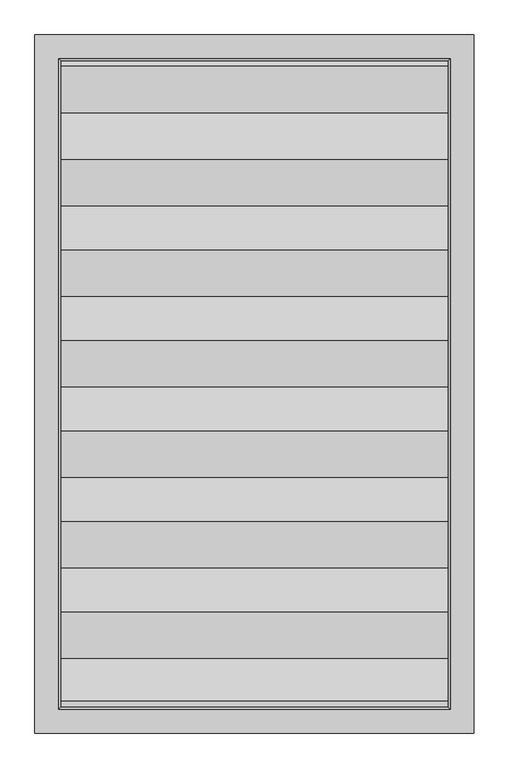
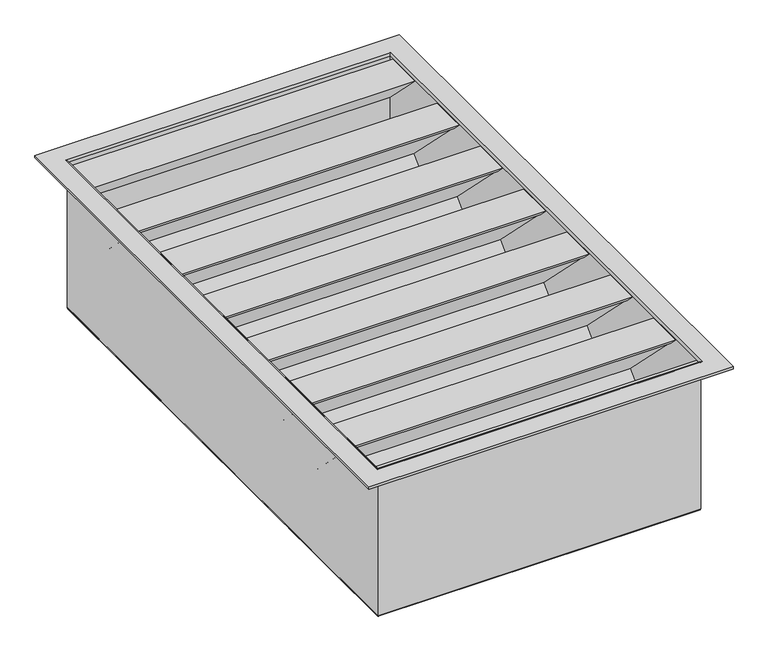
"""IFC4 building model written with IfcOpenShell, lengths in millimetres: air terminal geometry, AIR_FB_Sound-damping outdoor grille GDBV-140 45_SMA : GDBV-140/45."""

from ifc_helpers import new_model, si_unit, frame, origin, place, context, project, spatial, polyline, ellipse_curve, outline, extrude, source, transform, mapped, element, save
from ifc_brep_helpers import plane_surface, cylinder_surface, revolved_surface, advanced_brep


def air_terminal_f59a3cf8(model_context):
    return source(origin(), model_context, "Body", "SolidModel", [
        extrude(outline(polyline([(483.1, -145.9999992), (483.1, -154.883215), (347.9830126, -290.0), (276.0981375, -290.0), (293.2530918, -272.8444087), (294.2998553, -273.8911722), (423.1780942, -145.0129333), (294.2994702, -16.1343094), (293.2530918, -17.1806878), (276.0979508, -0.0258667), (347.9830134, -0.0258667), (483.1, -135.1426509), (483.1, -144.0258667), (492.9700895, -144.0258667), (492.9700895, -145.9999992), (483.1, -145.9999992)])), frame((-300.0, 0.0, 0.0), z_axis=(1.0, 0.0, 0.0), x_axis=(0.0, 1.0, 0.0)), (0.0, 0.0, 1.0), 600.0),
        extrude(outline(polyline([(343.1, -145.9999992), (343.1, -154.883215), (207.9830126, -290.0), (136.0981375, -290.0), (153.2530918, -272.8444087), (154.2998553, -273.8911722), (283.1780942, -145.0129333), (154.2994702, -16.1343094), (153.2530918, -17.1806878), (136.0979508, -0.0258667), (207.9830134, -0.0258667), (343.1, -135.1426509), (343.1, -144.0258667), (352.9700895, -144.0258667), (352.9700895, -145.9999992), (343.1, -145.9999992)])), frame((-300.0, 0.0, 0.0), z_axis=(1.0, 0.0, 0.0), x_axis=(0.0, 1.0, 0.0)), (0.0, 0.0, 1.0), 600.0),
        extrude(outline(polyline([(203.1, -145.9999992), (203.1, -154.883215), (67.9830126, -290.0), (-3.9018625, -290.0), (13.2530918, -272.8444087), (14.2998553, -273.8911722), (143.1780942, -145.0129333), (14.2994702, -16.1343094), (13.2530918, -17.1806878), (-3.9020492, -0.0258667), (67.9830134, -0.0258667), (203.1, -135.1426509), (203.1, -144.0258667), (212.9700895, -144.0258667), (212.9700895, -145.9999992), (203.1, -145.9999992)])), frame((-300.0, 0.0, 0.0), z_axis=(1.0, 0.0, 0.0), x_axis=(0.0, 1.0, 0.0)), (0.0, 0.0, 1.0), 600.0),
        extrude(outline(polyline([(63.1, -145.9999992), (63.1, -154.883215), (-72.0169874, -290.0), (-143.9018625, -290.0), (-126.7469082, -272.8444087), (-125.7001447, -273.8911722), (3.1780942, -145.0129333), (-125.7005298, -16.1343094), (-126.7469082, -17.1806878), (-143.9020492, -0.0258667), (-72.0169866, -0.0258667), (63.1, -135.1426509), (63.1, -144.0258667), (72.9700895, -144.0258667), (72.9700895, -145.9999992), (63.1, -145.9999992)])), frame((-300.0, 0.0, 0.0), z_axis=(1.0, 0.0, 0.0), x_axis=(0.0, 1.0, 0.0)), (0.0, 0.0, 1.0), 600.0),
        extrude(outline(polyline([(-76.9, -145.9999992), (-76.9, -154.883215), (-212.0169874, -290.0), (-283.9018625, -290.0), (-266.7469082, -272.8444087), (-265.7001447, -273.8911722), (-136.8219058, -145.0129333), (-265.7005298, -16.1343094), (-266.7469082, -17.1806878), (-283.9020492, -0.0258667), (-212.0169866, -0.0258667), (-76.9, -135.1426509), (-76.9, -144.0258667), (-67.0299105, -144.0258667), (-67.0299105, -145.9999992), (-76.9, -145.9999992)])), frame((-300.0, 0.0, 0.0), z_axis=(1.0, 0.0, 0.0), x_axis=(0.0, 1.0, 0.0)), (0.0, 0.0, 1.0), 600.0),
        extrude(outline(polyline([(-216.9, -145.9999992), (-216.9, -154.883215), (-352.0169874, -290.0), (-423.9018625, -290.0), (-406.7469082, -272.8444087), (-405.7001447, -273.8911722), (-276.8219058, -145.0129333), (-405.7005298, -16.1343094), (-406.7469082, -17.1806878), (-423.9020492, -0.0258667), (-352.0169866, -0.0258667), (-216.9, -135.1426509), (-216.9, -144.0258667), (-207.0299105, -144.0258667), (-207.0299105, -145.9999992), (-216.9, -145.9999992)])), frame((-300.0, 0.0, 0.0), z_axis=(1.0, 0.0, 0.0), x_axis=(0.0, 1.0, 0.0)), (0.0, 0.0, 1.0), 600.0),
        extrude(outline(polyline([(491.5, -286.5510372), (419.5, -286.5510372), (500.0, -206.0510372), (500.0, -278.0510372), (491.5, -286.5510372)])), frame((-300.0, 0.0, 0.0), z_axis=(1.0, 0.0, 0.0), x_axis=(0.0, 1.0, 0.0)), (0.0, 0.0, 1.0), 600.0),
        extrude(outline(polyline([(491.5, 0.0489628), (500.0, -8.4510372), (500.0, -80.4510372), (419.5, 0.0489628), (491.5, 0.0489628)])), frame((-300.0, 0.0, 0.0), z_axis=(1.0, 0.0, 0.0), x_axis=(0.0, 1.0, 0.0)), (0.0, 0.0, 1.0), 600.0),
        extrude(outline(polyline([(-490.3140974, 0.0489628), (-356.8841797, -133.3807551), (-356.8841797, -142.2639709), (-347.0138972, -142.2639709), (-347.0138972, -144.2381035), (-356.8841797, -144.2381035), (-356.8841797, -153.1213193), (-490.3140974, -286.5510372), (-500.0, -286.5510372), (-500.0, 0.0489628), (-490.3140974, 0.0489628)])), frame((-300.0, 0.0, 0.0), z_axis=(1.0, 0.0, 0.0), x_axis=(0.0, 1.0, 0.0)), (0.0, 0.0, 1.0), 600.0),
        advanced_brep(
        [(301.4695295, 501.4695295, 1.1587848), (303.4542548, 503.4542548, 3.1435102), (303.4542548, -503.4542548, 3.1435102), (301.4695295, -501.4695295, 1.1587848), (301.4695295, 501.4695295, -286.5329526), (301.4695295, -501.4695295, -286.5329526), (298.0024821, 498.0024821, -290.0), (298.0024821, -498.0024821, -290.0), (285.1867439, 485.1867439, -288.5), (285.1867439, 485.1867439, -290.0), (285.1867439, -485.1867439, -290.0), (285.1867439, -485.1867439, -288.5), (300.0, 500.0, -286.5510372), (298.035904, 498.035904, -288.5), (298.035904, -498.035904, -288.5), (300.0, -500.0, -286.5510372), (300.0, -500.0, 1.1644463), (300.0, 500.0, 1.1644463), (303.4507339, 503.4507339, 4.6151802), (303.4507339, -503.4507339, 4.6151802), (-303.4542548, -503.4542548, 3.1435102), (-301.4695295, -501.4695295, 1.1587848), (-301.4695295, -501.4695295, -286.5329526), (-298.0024821, -498.0024821, -290.0), (-285.1867439, -485.1867439, -290.0), (-285.1867439, -485.1867439, -288.5), (-298.035904, -498.035904, -288.5), (-300.0, -500.0, -286.5510372), (-300.0, -500.0, 1.1644463), (-303.4507339, -503.4507339, 4.6151802), (-303.4542548, 503.4542548, 3.1435102), (-301.4695295, 501.4695295, 1.1587848), (-301.4695295, 501.4695295, -286.5329526), (-298.0024821, 498.0024821, -290.0), (-285.1867439, 485.1867439, -290.0), (-285.1867439, 485.1867439, -288.5), (-298.035904, 498.035904, -288.5), (-300.0, 500.0, -286.5510372), (-300.0, 500.0, 1.1644463), (-303.4507339, 503.4507339, 4.6151802), (337.9596736, -537.9596736, 3.1435102), (-337.9596736, -537.9596736, 3.1435102), (-337.9596736, 537.9596736, 3.1435102), (337.9596736, 537.9596736, 3.1435102), (340.0, 540.0, 4.6151802), (-340.0, 540.0, 4.6151802), (-340.0, -540.0, 4.6151802), (340.0, -540.0, 4.6151802), (340.0, 540.0, 0.0), (340.0, -540.0, 0.0), (336.9581224, 536.9581224, 1.2615748), (336.9581224, 536.9581224, 0.0), (336.9581224, -536.9581224, 0.0), (336.9581224, -536.9581224, 1.2615748), (337.9596736, 537.9596736, 1.2615748), (337.9596736, -537.9596736, 1.2615748), (-340.0, -540.0, 0.0), (-336.9581224, -536.9581224, 0.0), (-336.9581224, -536.9581224, 1.2615748), (-337.9596736, -537.9596736, 1.2615748), (-340.0, 540.0, 0.0), (-336.9581224, 536.9581224, 0.0), (-336.9581224, 536.9581224, 1.2615748), (-337.9596736, 537.9596736, 1.2615748)],
        [
            (0, 1, ellipse_curve(frame((303.4542548, 503.4542548, 1.1587848), z_axis=(-0.7071067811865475, 0.7071067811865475, 0.0), x_axis=(-0.7071067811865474, -0.7071067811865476, 0.0)), 2.8068255, 1.9847254)),
            (1, 2),
            (2, 3, ellipse_curve(frame((303.4542548, -503.4542548, 1.1587848), z_axis=(-0.7071067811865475, -0.7071067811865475, 0.0), x_axis=(0.7071067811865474, -0.7071067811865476, 0.0)), 2.8068255, 1.9847254)),
            (3, 0),
            (4, 0),
            (3, 5),
            (5, 4),
            (6, 4, ellipse_curve(frame((298.0024821, 498.0024821, -286.5329526), z_axis=(0.7071067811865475, -0.7071067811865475, 0.0), x_axis=(0.7071067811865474, 0.7071067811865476, 0.0)), 4.9031454, 3.4670474)),
            (5, 7, ellipse_curve(frame((298.0024821, -498.0024821, -286.5329526), z_axis=(0.7071067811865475, 0.7071067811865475, 0.0), x_axis=(-0.7071067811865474, 0.7071067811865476, 0.0)), 4.9031454, 3.4670474)),
            (7, 6),
            (8, 9),
            (9, 10),
            (10, 11),
            (11, 8),
            (12, 13, ellipse_curve(frame((298.035904, 498.035904, -286.5358452), z_axis=(-0.7071067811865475, 0.7071067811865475, 0.0), x_axis=(-0.7071067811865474, -0.7071067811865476, 0.0)), 2.7777343, 1.9641548)),
            (13, 14),
            (14, 15, ellipse_curve(frame((298.035904, -498.035904, -286.5358452), z_axis=(-0.7071067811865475, -0.7071067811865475, 0.0), x_axis=(0.7071067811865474, -0.7071067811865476, 0.0)), 2.7777343, 1.9641548)),
            (15, 12),
            (15, 16),
            (16, 17),
            (17, 12),
            (18, 17, ellipse_curve(frame((303.4507339, 503.4507339, 1.1644463), z_axis=(0.7071067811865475, -0.7071067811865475, 0.0), x_axis=(0.7071067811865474, 0.7071067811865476, 0.0)), 4.8800747, 3.4507339)),
            (16, 19, ellipse_curve(frame((303.4507339, -503.4507339, 1.1644463), z_axis=(0.7071067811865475, 0.7071067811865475, 0.0), x_axis=(-0.7071067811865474, 0.7071067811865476, 0.0)), 4.8800747, 3.4507339)),
            (19, 18),
            (2, 20),
            (20, 21, ellipse_curve(frame((-303.4542548, -503.4542548, 1.1587848), z_axis=(-0.7071067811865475, 0.7071067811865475, 0.0), x_axis=(-0.7071067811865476, -0.7071067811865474, 0.0)), 2.8068255, 1.9847254)),
            (21, 3),
            (21, 22),
            (22, 5),
            (22, 23, ellipse_curve(frame((-298.0024821, -498.0024821, -286.5329526), z_axis=(0.7071067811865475, -0.7071067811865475, 0.0), x_axis=(0.7071067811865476, 0.7071067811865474, 0.0)), 4.9031454, 3.4670474)),
            (23, 7),
            (10, 24),
            (24, 25),
            (25, 11),
            (14, 26),
            (26, 27, ellipse_curve(frame((-298.035904, -498.035904, -286.5358452), z_axis=(-0.7071067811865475, 0.7071067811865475, 0.0), x_axis=(-0.7071067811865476, -0.7071067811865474, 0.0)), 2.7777343, 1.9641548)),
            (27, 15),
            (27, 28),
            (28, 16),
            (28, 29, ellipse_curve(frame((-303.4507339, -503.4507339, 1.1644463), z_axis=(0.7071067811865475, -0.7071067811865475, 0.0), x_axis=(0.7071067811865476, 0.7071067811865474, 0.0)), 4.8800747, 3.4507339)),
            (29, 19),
            (20, 30),
            (30, 31, ellipse_curve(frame((-303.4542548, 503.4542548, 1.1587848), z_axis=(0.7071067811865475, 0.7071067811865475, 0.0), x_axis=(-0.7071067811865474, 0.7071067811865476, 0.0)), 2.8068255, 1.9847254)),
            (31, 21),
            (31, 32),
            (32, 22),
            (32, 33, ellipse_curve(frame((-298.0024821, 498.0024821, -286.5329526), z_axis=(-0.7071067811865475, -0.7071067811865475, 0.0), x_axis=(0.7071067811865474, -0.7071067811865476, 0.0)), 4.9031454, 3.4670474)),
            (33, 23),
            (24, 34),
            (34, 35),
            (35, 25),
            (26, 36),
            (36, 37, ellipse_curve(frame((-298.035904, 498.035904, -286.5358452), z_axis=(0.7071067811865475, 0.7071067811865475, 0.0), x_axis=(-0.7071067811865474, 0.7071067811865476, 0.0)), 2.7777343, 1.9641548)),
            (37, 27),
            (37, 38),
            (38, 28),
            (38, 39, ellipse_curve(frame((-303.4507339, 503.4507339, 1.1644463), z_axis=(-0.7071067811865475, -0.7071067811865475, 0.0), x_axis=(0.7071067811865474, -0.7071067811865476, 0.0)), 4.8800747, 3.4507339)),
            (39, 29),
            (40, 41),
            (41, 42),
            (42, 43),
            (43, 40),
            (1, 30),
            (0, 31),
            (4, 32),
            (6, 33),
            (9, 34),
            (8, 35),
            (13, 36),
            (12, 37),
            (17, 38),
            (18, 39),
            (44, 45),
            (45, 46),
            (46, 47),
            (47, 44),
            (48, 44),
            (47, 49),
            (49, 48),
            (50, 51),
            (51, 52),
            (52, 53),
            (53, 50),
            (43, 54),
            (54, 55),
            (55, 40),
            (46, 56),
            (56, 49),
            (52, 57),
            (57, 58),
            (58, 53),
            (55, 59),
            (59, 41),
            (45, 60),
            (60, 56),
            (57, 61),
            (61, 62),
            (62, 58),
            (59, 63),
            (63, 42),
            (48, 60),
            (51, 61),
            (50, 62),
            (54, 63),
        ],
        [
            revolved_surface(polyline([(305.4389802, -505.4389801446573, 1.1587848), (305.4389802, 505.4389801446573, 1.1587848)]), (303.4542548, 500.0, 1.1587848), (0.0, -1.0, 0.0)),
            plane_surface(frame((301.4695295, 501.4695295, 1.1587848), z_axis=(1.0, 0.0, 0.0), x_axis=(0.0, -1.0, 0.0))),
            cylinder_surface(frame((298.0024821, 500.0, -286.5329526), z_axis=(0.0, 1.0, 0.0), x_axis=(1.0, 0.0, 0.0)), 3.4670474),
            plane_surface(frame((285.1867439, 485.1867439, -290.0), z_axis=(-1.0, 0.0, 0.0), x_axis=(0.0, -1.0, 0.0))),
            revolved_surface(polyline([(300.00005880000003, -500.0000587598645, -286.5358452), (300.00005880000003, 500.0000587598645, -286.5358452)]), (298.035904, 500.0, -286.5358452), (0.0, -1.0, 0.0)),
            plane_surface(frame((300.0, 500.0, -16.1095276), z_axis=(-1.0, 0.0, 0.0), x_axis=(0.0, -1.0, 0.0))),
            cylinder_surface(frame((303.4507339, 500.0, 1.1644463), z_axis=(0.0, 1.0, 0.0), x_axis=(1.0, 0.0, 0.0)), 3.4507339),
            revolved_surface(polyline([(-305.4389801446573, -505.4389802, 1.1587848), (305.4389801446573, -505.4389802, 1.1587848)]), (300.0, -503.4542548, 1.1587848), (-1.0, 0.0, 0.0)),
            plane_surface(frame((301.4695295, -501.4695295, 1.1587848), z_axis=(0.0, -1.0, 0.0), x_axis=(-1.0, 0.0, 0.0))),
            cylinder_surface(frame((300.0, -498.0024821, -286.5329526), z_axis=(1.0, 0.0, 0.0), x_axis=(0.0, -1.0, 0.0)), 3.4670474),
            plane_surface(frame((285.1867439, -485.1867439, -290.0), z_axis=(0.0, 1.0, 0.0), x_axis=(-1.0, 0.0, 0.0))),
            revolved_surface(polyline([(-300.0000587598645, -500.00005880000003, -286.5358452), (300.0000587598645, -500.00005880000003, -286.5358452)]), (300.0, -498.035904, -286.5358452), (-1.0, 0.0, 0.0)),
            plane_surface(frame((300.0, -500.0, -16.1095276), z_axis=(0.0, 1.0, 0.0), x_axis=(-1.0, 0.0, 0.0))),
            cylinder_surface(frame((300.0, -503.4507339, 1.1644463), z_axis=(1.0, 0.0, 0.0), x_axis=(0.0, -1.0, 0.0)), 3.4507339),
            revolved_surface(polyline([(-305.4389802, 505.4389801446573, 1.1587848), (-305.4389802, -505.4389801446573, 1.1587848)]), (-303.4542548, -500.0, 1.1587848), (0.0, 1.0, 0.0)),
            plane_surface(frame((-301.4695295, -501.4695295, 1.1587848), z_axis=(-1.0, 0.0, 0.0), x_axis=(0.0, 1.0, 0.0))),
            cylinder_surface(frame((-298.0024821, -500.0, -286.5329526), z_axis=(0.0, -1.0, 0.0), x_axis=(-1.0, 0.0, 0.0)), 3.4670474),
            plane_surface(frame((-285.1867439, -485.1867439, -290.0), z_axis=(1.0, 0.0, 0.0), x_axis=(0.0, 1.0, 0.0))),
            revolved_surface(polyline([(-300.00005880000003, 500.0000587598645, -286.5358452), (-300.00005880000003, -500.0000587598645, -286.5358452)]), (-298.035904, -500.0, -286.5358452), (0.0, 1.0, 0.0)),
            plane_surface(frame((-300.0, -500.0, -16.1095276), z_axis=(1.0, 0.0, 0.0), x_axis=(0.0, 1.0, 0.0))),
            cylinder_surface(frame((-303.4507339, -500.0, 1.1644463), z_axis=(0.0, -1.0, 0.0), x_axis=(-1.0, 0.0, 0.0)), 3.4507339),
            plane_surface(frame((-337.9596736, 537.9596736, 3.1435102), z_axis=(0.0, 0.0, -1.0), x_axis=(1.0, 0.0, 0.0))),
            revolved_surface(polyline([(305.4389801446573, 505.4389802, 1.1587848), (-305.4389801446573, 505.4389802, 1.1587848)]), (-300.0, 503.4542548, 1.1587848), (1.0, 0.0, 0.0)),
            plane_surface(frame((-301.4695295, 501.4695295, 1.1587848), z_axis=(0.0, 1.0, 0.0), x_axis=(1.0, 0.0, 0.0))),
            cylinder_surface(frame((-300.0, 498.0024821, -286.5329526), z_axis=(-1.0, 0.0, 0.0), x_axis=(0.0, 1.0, 0.0)), 3.4670474),
            plane_surface(frame((-298.0024821, 498.0024821, -290.0), z_axis=(0.0, 0.0, -1.0), x_axis=(1.0, 0.0, 0.0))),
            plane_surface(frame((-285.1867439, 485.1867439, -290.0), z_axis=(0.0, -1.0, 0.0), x_axis=(1.0, 0.0, 0.0))),
            plane_surface(frame((-285.1867439, 485.1867439, -288.5), z_axis=(0.0, 0.0, 1.0), x_axis=(1.0, 0.0, 0.0))),
            revolved_surface(polyline([(300.0000587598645, 500.00005880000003, -286.5358452), (-300.0000587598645, 500.00005880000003, -286.5358452)]), (-300.0, 498.035904, -286.5358452), (1.0, 0.0, 0.0)),
            plane_surface(frame((-300.0, 500.0, -16.1095276), z_axis=(0.0, -1.0, 0.0), x_axis=(1.0, 0.0, 0.0))),
            cylinder_surface(frame((-300.0, 503.4507339, 1.1644463), z_axis=(-1.0, 0.0, 0.0), x_axis=(0.0, 1.0, 0.0)), 3.4507339),
            plane_surface(frame((-303.4507339, 503.4507339, 4.6151802), z_axis=(0.0, 0.0, 1.0), x_axis=(1.0, 0.0, 0.0))),
            plane_surface(frame((340.0, 540.0, 4.6151802), z_axis=(1.0, 0.0, 0.0), x_axis=(0.0, -1.0, 0.0))),
            plane_surface(frame((336.9581224, 536.9581224, 0.0), z_axis=(-1.0, 0.0, 0.0), x_axis=(0.0, -1.0, 0.0))),
            plane_surface(frame((337.9596736, 537.9596736, 1.2615748), z_axis=(-1.0, 0.0, 0.0), x_axis=(0.0, -1.0, 0.0))),
            plane_surface(frame((340.0, -540.0, 4.6151802), z_axis=(0.0, -1.0, 0.0), x_axis=(-1.0, 0.0, 0.0))),
            plane_surface(frame((336.9581224, -536.9581224, 0.0), z_axis=(0.0, 1.0, 0.0), x_axis=(-1.0, 0.0, 0.0))),
            plane_surface(frame((337.9596736, -537.9596736, 1.2615748), z_axis=(0.0, 1.0, 0.0), x_axis=(-1.0, 0.0, 0.0))),
            plane_surface(frame((-340.0, -540.0, 4.6151802), z_axis=(-1.0, 0.0, 0.0), x_axis=(0.0, 1.0, 0.0))),
            plane_surface(frame((-336.9581224, -536.9581224, 0.0), z_axis=(1.0, 0.0, 0.0), x_axis=(0.0, 1.0, 0.0))),
            plane_surface(frame((-337.9596736, -537.9596736, 1.2615748), z_axis=(1.0, 0.0, 0.0), x_axis=(0.0, 1.0, 0.0))),
            plane_surface(frame((-340.0, 540.0, 4.6151802), z_axis=(0.0, 1.0, 0.0), x_axis=(1.0, 0.0, 0.0))),
            plane_surface(frame((-340.0, 540.0, 0.0), z_axis=(0.0, 0.0, -1.0), x_axis=(1.0, 0.0, 0.0))),
            plane_surface(frame((-336.9581224, 536.9581224, 0.0), z_axis=(0.0, -1.0, 0.0), x_axis=(1.0, 0.0, 0.0))),
            plane_surface(frame((-336.9581224, 536.9581224, 1.2615748), z_axis=(0.0, 0.0, 1.0), x_axis=(1.0, 0.0, 0.0))),
            plane_surface(frame((-337.9596736, 537.9596736, 1.2615748), z_axis=(0.0, -1.0, 0.0), x_axis=(1.0, 0.0, 0.0))),
        ],
        [
            (0, [[1, 2, 3, 4]]),
            (1, [[5, -4, 6, 7]]),
            (2, [[8, -7, 9, 10]]),
            (3, [[11, 12, 13, 14]]),
            (4, [[15, 16, 17, 18]]),
            (5, [[-18, 19, 20, 21]]),
            (6, [[22, -20, 23, 24]]),
            (7, [[-3, 25, 26, 27]]),
            (8, [[-6, -27, 28, 29]]),
            (9, [[-9, -29, 30, 31]]),
            (10, [[-13, 32, 33, 34]]),
            (11, [[-17, 35, 36, 37]]),
            (12, [[-19, -37, 38, 39]]),
            (13, [[-23, -39, 40, 41]]),
            (14, [[-26, 42, 43, 44]]),
            (15, [[-28, -44, 45, 46]]),
            (16, [[-30, -46, 47, 48]]),
            (17, [[-33, 49, 50, 51]]),
            (18, [[-36, 52, 53, 54]]),
            (19, [[-38, -54, 55, 56]]),
            (20, [[-40, -56, 57, 58]]),
            (21, [[59, 60, 61, 62], [63, -42, -25, -2]]),
            (22, [[-43, -63, -1, 64]]),
            (23, [[-45, -64, -5, 65]]),
            (24, [[-47, -65, -8, 66]]),
            (25, [[-31, -48, -66, -10], [67, -49, -32, -12]]),
            (26, [[-50, -67, -11, 68]]),
            (27, [[69, -52, -35, -16], [-34, -51, -68, -14]]),
            (28, [[-53, -69, -15, 70]]),
            (29, [[-55, -70, -21, 71]]),
            (30, [[-57, -71, -22, 72]]),
            (31, [[73, 74, 75, 76], [-41, -58, -72, -24]]),
            (32, [[77, -76, 78, 79]]),
            (33, [[80, 81, 82, 83]]),
            (34, [[84, 85, 86, -62]]),
            (35, [[-78, -75, 87, 88]]),
            (36, [[-82, 89, 90, 91]]),
            (37, [[-86, 92, 93, -59]]),
            (38, [[-87, -74, 94, 95]]),
            (39, [[-90, 96, 97, 98]]),
            (40, [[-93, 99, 100, -60]]),
            (41, [[-94, -73, -77, 101]]),
            (42, [[-88, -95, -101, -79], [102, -96, -89, -81]]),
            (43, [[-97, -102, -80, 103]]),
            (44, [[104, -99, -92, -85], [-91, -98, -103, -83]]),
            (45, [[-100, -104, -84, -61]]),
        ],
    ),
    ])


if __name__ == "__main__":
    model = new_model("IFC4")
    model_context = context("Model", 3, world=origin())
    ifc_project = project(units=[si_unit("LENGTHUNIT", "METRE", prefix="MILLI")], contexts=[model_context])
    site = spatial("IfcSite", under=ifc_project)
    building = spatial("IfcBuilding", under=site)
    placement = place(None, origin())
    air_terminal_shape = air_terminal_f59a3cf8(model_context)
    element("IfcAirTerminal", 1, ObjectType="AIR_FB_Sound-damping outdoor grille GDBV-140 45_SMA : GDBV-140/45", at=placement, inside=building, context=model_context, shape_type="MappedRepresentation", body=[
        mapped(air_terminal_shape, transform((0.0, 0.0, 0.0), x_axis=(1.0, 0.0, 0.0), y_axis=(0.0, 1.0, 0.0), z_axis=(0.0, 0.0, 1.0))),
    ])
    save(model, "model.ifc")
